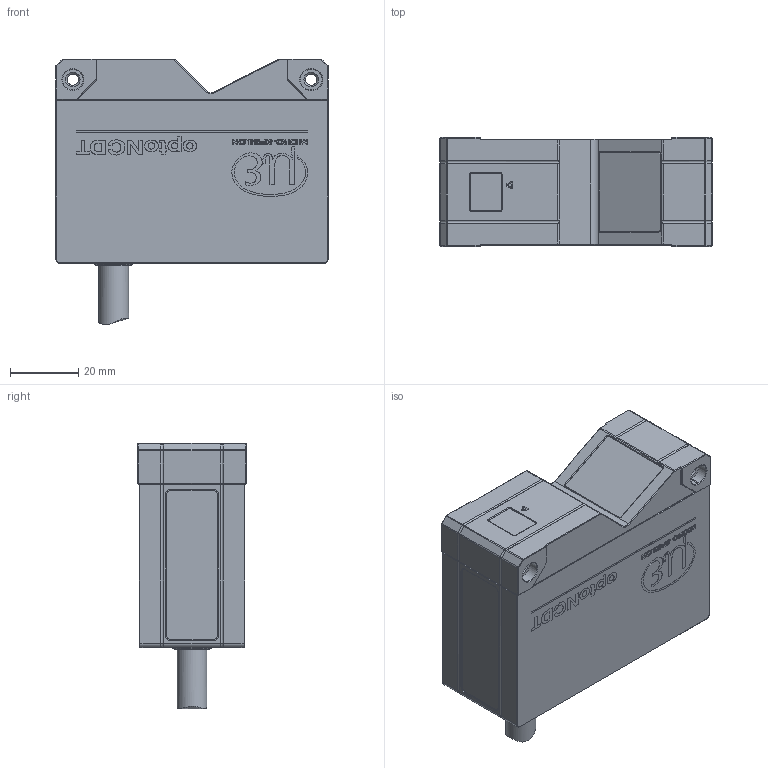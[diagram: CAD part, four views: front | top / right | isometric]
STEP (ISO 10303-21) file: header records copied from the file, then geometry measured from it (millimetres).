
FILE_DESCRIPTION (( 'STEP AP214' ), '1' );
FILE_NAME ('ILD5500_MB50.step', '2025-07-31T11:03:42', ( '' ), ( '' ), 'SwSTEP 2.0', 'SolidWorks 2022', '' );
FILE_SCHEMA (( 'AUTOMOTIVE_DESIGN' ));
Length unit declared in the file: millimetre
Products named in the file (1): ILD5500_MB50
Bounding box: 80 x 32 x 77.97 mm (x, y, z)
Volume: 142900.5 mm3; surface area: 20842.3 mm2
Topology: 1 solids, 3 shells, 1894 faces, 5008 edges, 3266 vertices
Faces by surface type: plane 948, bspline 737, cylinder 128, cone 66, torus 15
Full cylindrical faces by diameter (mm): 0.7 x1, 2.4 x2, 3.3 x2, 6 x2, 8.8 x1, 10 x2, 10.5 x2, 11 x1
Entity records: 94664 total; most frequent: CARTESIAN_POINT 32344, ORIENTED_EDGE 9896, DIRECTION 6043, EDGE_CURVE 4948, VERTEX_POINT 3247, VECTOR 3141, LINE 3141, EDGE_LOOP 2085
